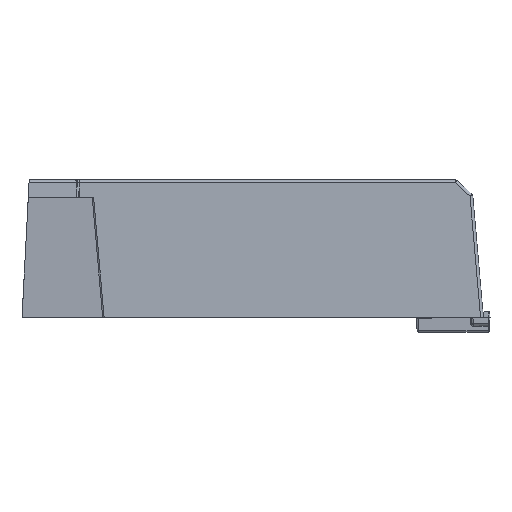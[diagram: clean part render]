
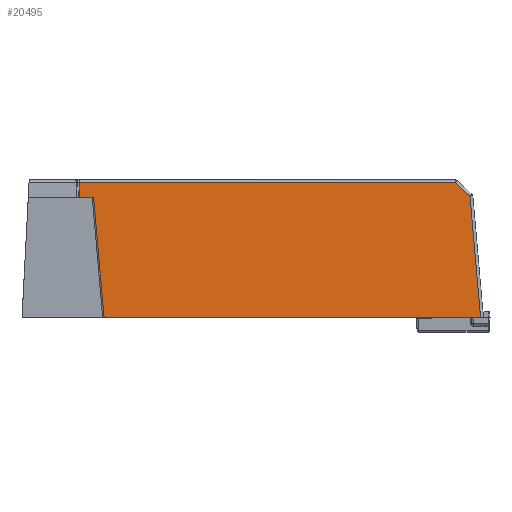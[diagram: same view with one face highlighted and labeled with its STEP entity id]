
A CAD part, left-side view. The second image highlights one B-rep face of the part: STEP entity #20495.
In plain terms, the highlighted planar face has unit normal (-1, 0, 0.026).
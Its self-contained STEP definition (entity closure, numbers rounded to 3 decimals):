
#1406=DIRECTION('',(0.,-1.,0.));
#1407=VECTOR('',#1406,53.618);
#1408=CARTESIAN_POINT('',(-16.05,37.308,-0.8));
#1409=LINE('',#1408,#1407);
#1414=CARTESIAN_POINT('',(-16.05,-16.31,-0.8));
#6349=CARTESIAN_POINT('',(-15.603,38.8,16.25));
#6549=DIRECTION('',(-0.026,-0.087,-0.996));
#6550=VECTOR('',#6549,17.351);
#6551=CARTESIAN_POINT('',(-15.598,-14.798,
16.479));
#6552=LINE('',#6551,#6550);
#6553=DIRECTION('',(0.026,0.087,0.996));
#6554=VECTOR('',#6553,17.121);
#6555=CARTESIAN_POINT('',(-16.05,37.308,-0.8));
#6556=LINE('',#6555,#6554);
#6557=DIRECTION('',(0.,1.,0.));
#6558=VECTOR('',#6557,2.);
#6559=CARTESIAN_POINT('',(-15.603,38.8,16.25));
#6560=LINE('',#6559,#6558);
#6561=DIRECTION('',(0.026,0.026,0.999));
#6562=VECTOR('',#6561,2.112);
#6563=CARTESIAN_POINT('',(-15.604,40.8,16.25));
#6564=LINE('',#6563,#6562);
#6565=DIRECTION('',(0.,-1.,0.));
#6566=VECTOR('',#6565,53.6);
#6567=CARTESIAN_POINT('',(-15.548,40.855,18.36));
#6568=LINE('',#6567,#6566);
#6569=DIRECTION('',(-0.018,-0.737,-0.675));
#6570=VECTOR('',#6569,2.786);
#6571=CARTESIAN_POINT('',(-15.548,-12.744,
18.36));
#6572=LINE('',#6571,#6570);
#6654=CARTESIAN_POINT('',(-15.604,40.8,16.25));
#7989=VERTEX_POINT('',#6349);
#8001=CARTESIAN_POINT('',(-16.05,37.308,-0.8));
#8002=VERTEX_POINT('',#8001);
#8183=VERTEX_POINT('',#6654);
#8212=VERTEX_POINT('',#1414);
#8213=CARTESIAN_POINT('',(-15.598,-14.798,
16.479));
#8214=VERTEX_POINT('',#8213);
#8221=CARTESIAN_POINT('',(-15.548,-12.744,
18.36));
#8222=VERTEX_POINT('',#8221);
#8227=CARTESIAN_POINT('',(-15.548,40.855,18.36));
#8228=VERTEX_POINT('',#8227);
#20479=CARTESIAN_POINT('',(-16.05,49.947,-0.8));
#20480=DIRECTION('',(-1.,0.,0.026));
#20481=DIRECTION('',(0.,1.,0.));
#20482=AXIS2_PLACEMENT_3D('',#20479,#20480,#20481);
#20483=PLANE('',#20482);
#20484=ORIENTED_EDGE('',*,*,#20472,.T.);
#20485=ORIENTED_EDGE('',*,*,#10443,.F.);
#20487=ORIENTED_EDGE('',*,*,#20486,.T.);
#20488=ORIENTED_EDGE('',*,*,#20021,.T.);
#20490=ORIENTED_EDGE('',*,*,#20489,.T.);
#20491=ORIENTED_EDGE('',*,*,#20263,.T.);
#20492=ORIENTED_EDGE('',*,*,#20383,.T.);
#20493=EDGE_LOOP('',(#20484,#20485,#20487,#20488,#20490,#20491,#20492));
#20494=FACE_OUTER_BOUND('',#20493,.F.);
#20495=ADVANCED_FACE('',(#20494),#20483,.T.);
#10443=EDGE_CURVE('',#8002,#8212,#1409,.T.);
#20021=EDGE_CURVE('',#7989,#8183,#6560,.T.);
#20263=EDGE_CURVE('',#8228,#8222,#6568,.T.);
#20383=EDGE_CURVE('',#8222,#8214,#6572,.T.);
#20472=EDGE_CURVE('',#8214,#8212,#6552,.T.);
#20486=EDGE_CURVE('',#8002,#7989,#6556,.T.);
#20489=EDGE_CURVE('',#8183,#8228,#6564,.T.);
